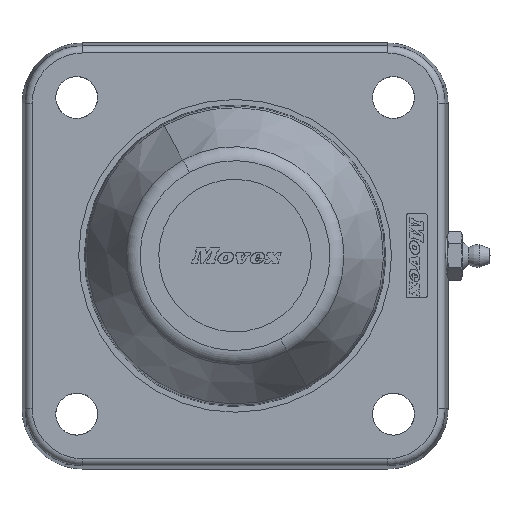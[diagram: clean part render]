
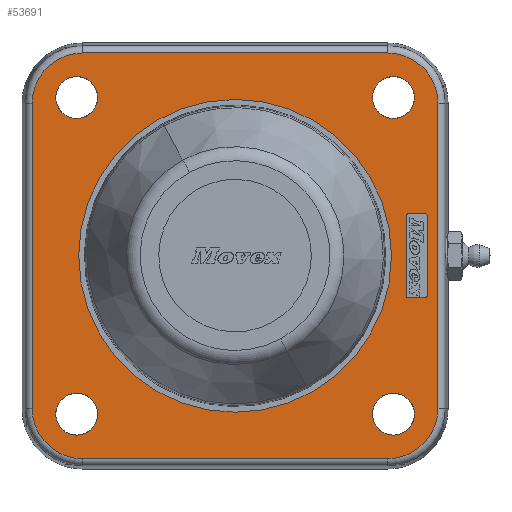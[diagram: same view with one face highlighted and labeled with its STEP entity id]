
A CAD part, top view. The second image highlights one B-rep face of the part: STEP entity #53691.
In plain terms, the highlighted planar face has unit normal (0, 0, 1).
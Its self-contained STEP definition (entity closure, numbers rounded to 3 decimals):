
#52777=CARTESIAN_POINT('Vertex',(41.,0.,25.5)) ;
#52780=CARTESIAN_POINT('Axis2P3D Location',(0.,0.,25.5)) ;
#52784=CARTESIAN_POINT('Vertex',(-41.,0.,25.5)) ;
#52804=CARTESIAN_POINT('Axis2P3D Location',(0.,0.,25.5)) ;
#52834=CARTESIAN_POINT('Vertex',(47.,41.5,25.5)) ;
#52837=CARTESIAN_POINT('Axis2P3D Location',(41.5,41.5,25.5)) ;
#52841=CARTESIAN_POINT('Vertex',(36.,41.5,25.5)) ;
#52861=CARTESIAN_POINT('Axis2P3D Location',(41.5,41.5,25.5)) ;
#52891=CARTESIAN_POINT('Vertex',(-41.5,36.,25.5)) ;
#52894=CARTESIAN_POINT('Axis2P3D Location',(-41.5,41.5,25.5)) ;
#52898=CARTESIAN_POINT('Vertex',(-41.5,47.,25.5)) ;
#52918=CARTESIAN_POINT('Axis2P3D Location',(-41.5,41.5,25.5)) ;
#52948=CARTESIAN_POINT('Vertex',(-36.,-41.5,25.5)) ;
#52951=CARTESIAN_POINT('Axis2P3D Location',(-41.5,-41.5,25.5)) ;
#52955=CARTESIAN_POINT('Vertex',(-47.,-41.5,25.5)) ;
#52975=CARTESIAN_POINT('Axis2P3D Location',(-41.5,-41.5,25.5)) ;
#53005=CARTESIAN_POINT('Vertex',(41.5,-36.,25.5)) ;
#53008=CARTESIAN_POINT('Axis2P3D Location',(41.5,-41.5,25.5)) ;
#53012=CARTESIAN_POINT('Vertex',(41.5,-47.,25.5)) ;
#53032=CARTESIAN_POINT('Axis2P3D Location',(41.5,-41.5,25.5)) ;
#53053=CARTESIAN_POINT('Vertex',(-40.,53.173,25.5)) ;
#53067=CARTESIAN_POINT('Vertex',(-53.173,40.,25.5)) ;
#53070=CARTESIAN_POINT('Axis2P3D Location',(-40.,40.,25.5)) ;
#53210=CARTESIAN_POINT('Vertex',(40.,53.173,25.5)) ;
#53213=CARTESIAN_POINT('Line Origine',(0.,53.173,25.5)) ;
#53234=CARTESIAN_POINT('Vertex',(53.173,40.,25.5)) ;
#53237=CARTESIAN_POINT('Axis2P3D Location',(40.,40.,25.5)) ;
#53258=CARTESIAN_POINT('Vertex',(53.173,-40.,25.5)) ;
#53261=CARTESIAN_POINT('Line Origine',(53.173,0.,25.5)) ;
#53282=CARTESIAN_POINT('Vertex',(40.,-53.173,25.5)) ;
#53285=CARTESIAN_POINT('Axis2P3D Location',(40.,-40.,25.5)) ;
#53306=CARTESIAN_POINT('Vertex',(-40.,-53.173,25.5)) ;
#53309=CARTESIAN_POINT('Line Origine',(0.,-53.173,25.5)) ;
#53330=CARTESIAN_POINT('Vertex',(-53.173,-40.,25.5)) ;
#53333=CARTESIAN_POINT('Axis2P3D Location',(-40.,-40.,25.5)) ;
#53355=CARTESIAN_POINT('Line Origine',(-53.173,0.,25.5)) ;
#53590=CARTESIAN_POINT('Axis2P3D Location',(0.,0.,25.5)) ;
#53625=CARTESIAN_POINT('Axis2P3D Location',(-45.346,10.5,25.5)) ;
#53629=CARTESIAN_POINT('Vertex',(-44.846,10.5,25.5)) ;
#53631=CARTESIAN_POINT('Vertex',(-45.346,11.,25.5)) ;
#53634=CARTESIAN_POINT('Line Origine',(-44.846,0.,25.5)) ;
#53638=CARTESIAN_POINT('Vertex',(-44.846,-10.5,25.5)) ;
#53641=CARTESIAN_POINT('Axis2P3D Location',(-45.346,-10.5,25.5)) ;
#53645=CARTESIAN_POINT('Vertex',(-45.346,-11.,25.5)) ;
#53648=CARTESIAN_POINT('Line Origine',(-47.595,-11.,25.5)) ;
#53652=CARTESIAN_POINT('Vertex',(-49.845,-11.,25.5)) ;
#53655=CARTESIAN_POINT('Axis2P3D Location',(-49.845,-10.5,25.5)) ;
#53659=CARTESIAN_POINT('Vertex',(-50.345,-10.5,25.5)) ;
#53662=CARTESIAN_POINT('Line Origine',(-50.345,0.,25.5)) ;
#53666=CARTESIAN_POINT('Vertex',(-50.345,10.5,25.5)) ;
#53669=CARTESIAN_POINT('Axis2P3D Location',(-49.845,10.5,25.5)) ;
#53673=CARTESIAN_POINT('Vertex',(-49.845,11.,25.5)) ;
#53676=CARTESIAN_POINT('Line Origine',(-47.595,11.,25.5)) ;
#52781=DIRECTION('Axis2P3D Direction',(0.,0.,1.)) ;
#52805=DIRECTION('Axis2P3D Direction',(0.,0.,1.)) ;
#52838=DIRECTION('Axis2P3D Direction',(0.,0.,1.)) ;
#52862=DIRECTION('Axis2P3D Direction',(0.,0.,1.)) ;
#52895=DIRECTION('Axis2P3D Direction',(0.,-0.,1.)) ;
#52919=DIRECTION('Axis2P3D Direction',(0.,-0.,1.)) ;
#52952=DIRECTION('Axis2P3D Direction',(0.,0.,1.)) ;
#52976=DIRECTION('Axis2P3D Direction',(0.,0.,1.)) ;
#53009=DIRECTION('Axis2P3D Direction',(0.,0.,1.)) ;
#53033=DIRECTION('Axis2P3D Direction',(0.,0.,1.)) ;
#53071=DIRECTION('Axis2P3D Direction',(-0.,0.,1.)) ;
#53214=DIRECTION('Vector Direction',(1.,0.,0.)) ;
#53238=DIRECTION('Axis2P3D Direction',(0.,0.,1.)) ;
#53262=DIRECTION('Vector Direction',(0.,-1.,0.)) ;
#53286=DIRECTION('Axis2P3D Direction',(0.,0.,1.)) ;
#53310=DIRECTION('Vector Direction',(-1.,0.,0.)) ;
#53334=DIRECTION('Axis2P3D Direction',(0.,-0.,1.)) ;
#53356=DIRECTION('Vector Direction',(0.,1.,0.)) ;
#53591=DIRECTION('Axis2P3D Direction',(0.,0.,1.)) ;
#53592=DIRECTION('Axis2P3D XDirection',(1.,0.,0.)) ;
#53626=DIRECTION('Axis2P3D Direction',(0.,0.,1.)) ;
#53635=DIRECTION('Vector Direction',(0.,1.,0.)) ;
#53642=DIRECTION('Axis2P3D Direction',(0.,0.,1.)) ;
#53649=DIRECTION('Vector Direction',(-1.,0.,0.)) ;
#53656=DIRECTION('Axis2P3D Direction',(0.,0.,1.)) ;
#53663=DIRECTION('Vector Direction',(0.,1.,0.)) ;
#53670=DIRECTION('Axis2P3D Direction',(0.,0.,1.)) ;
#53677=DIRECTION('Vector Direction',(1.,0.,0.)) ;
#52782=AXIS2_PLACEMENT_3D('Circle Axis2P3D',#52780,#52781,$) ;
#52806=AXIS2_PLACEMENT_3D('Circle Axis2P3D',#52804,#52805,$) ;
#52839=AXIS2_PLACEMENT_3D('Circle Axis2P3D',#52837,#52838,$) ;
#52863=AXIS2_PLACEMENT_3D('Circle Axis2P3D',#52861,#52862,$) ;
#52896=AXIS2_PLACEMENT_3D('Circle Axis2P3D',#52894,#52895,$) ;
#52920=AXIS2_PLACEMENT_3D('Circle Axis2P3D',#52918,#52919,$) ;
#52953=AXIS2_PLACEMENT_3D('Circle Axis2P3D',#52951,#52952,$) ;
#52977=AXIS2_PLACEMENT_3D('Circle Axis2P3D',#52975,#52976,$) ;
#53010=AXIS2_PLACEMENT_3D('Circle Axis2P3D',#53008,#53009,$) ;
#53034=AXIS2_PLACEMENT_3D('Circle Axis2P3D',#53032,#53033,$) ;
#53072=AXIS2_PLACEMENT_3D('Circle Axis2P3D',#53070,#53071,$) ;
#53239=AXIS2_PLACEMENT_3D('Circle Axis2P3D',#53237,#53238,$) ;
#53287=AXIS2_PLACEMENT_3D('Circle Axis2P3D',#53285,#53286,$) ;
#53335=AXIS2_PLACEMENT_3D('Circle Axis2P3D',#53333,#53334,$) ;
#53593=AXIS2_PLACEMENT_3D('Plane Axis2P3D',#53590,#53591,#53592) ;
#53627=AXIS2_PLACEMENT_3D('Circle Axis2P3D',#53625,#53626,$) ;
#53643=AXIS2_PLACEMENT_3D('Circle Axis2P3D',#53641,#53642,$) ;
#53657=AXIS2_PLACEMENT_3D('Circle Axis2P3D',#53655,#53656,$) ;
#53671=AXIS2_PLACEMENT_3D('Circle Axis2P3D',#53669,#53670,$) ;
#53596=ORIENTED_EDGE('',*,*,#53241,.T.) ;
#53597=ORIENTED_EDGE('',*,*,#53217,.T.) ;
#53598=ORIENTED_EDGE('',*,*,#53074,.T.) ;
#53599=ORIENTED_EDGE('',*,*,#53359,.T.) ;
#53600=ORIENTED_EDGE('',*,*,#53337,.T.) ;
#53601=ORIENTED_EDGE('',*,*,#53313,.T.) ;
#53602=ORIENTED_EDGE('',*,*,#53289,.T.) ;
#53603=ORIENTED_EDGE('',*,*,#53265,.T.) ;
#53606=ORIENTED_EDGE('',*,*,#52786,.F.) ;
#53607=ORIENTED_EDGE('',*,*,#52808,.F.) ;
#53610=ORIENTED_EDGE('',*,*,#52843,.F.) ;
#53611=ORIENTED_EDGE('',*,*,#52865,.F.) ;
#53614=ORIENTED_EDGE('',*,*,#52922,.F.) ;
#53615=ORIENTED_EDGE('',*,*,#52900,.F.) ;
#53618=ORIENTED_EDGE('',*,*,#52979,.F.) ;
#53619=ORIENTED_EDGE('',*,*,#52957,.F.) ;
#53622=ORIENTED_EDGE('',*,*,#53036,.F.) ;
#53623=ORIENTED_EDGE('',*,*,#53014,.F.) ;
#53682=ORIENTED_EDGE('',*,*,#53633,.F.) ;
#53683=ORIENTED_EDGE('',*,*,#53640,.F.) ;
#53684=ORIENTED_EDGE('',*,*,#53647,.F.) ;
#53685=ORIENTED_EDGE('',*,*,#53654,.F.) ;
#53686=ORIENTED_EDGE('',*,*,#53661,.F.) ;
#53687=ORIENTED_EDGE('',*,*,#53668,.F.) ;
#53688=ORIENTED_EDGE('',*,*,#53675,.F.) ;
#53689=ORIENTED_EDGE('',*,*,#53680,.F.) ;
#53608=FACE_BOUND('',#53605,.T.) ;
#53612=FACE_BOUND('',#53609,.T.) ;
#53616=FACE_BOUND('',#53613,.T.) ;
#53620=FACE_BOUND('',#53617,.T.) ;
#53624=FACE_BOUND('',#53621,.T.) ;
#53690=FACE_BOUND('',#53681,.T.) ;
#53215=VECTOR('Line Direction',#53214,1.) ;
#53263=VECTOR('Line Direction',#53262,1.) ;
#53311=VECTOR('Line Direction',#53310,1.) ;
#53357=VECTOR('Line Direction',#53356,1.) ;
#53636=VECTOR('Line Direction',#53635,1.) ;
#53650=VECTOR('Line Direction',#53649,1.) ;
#53664=VECTOR('Line Direction',#53663,1.) ;
#53678=VECTOR('Line Direction',#53677,1.) ;
#53691=ADVANCED_FACE('PartBody',(#53604,#53608,#53612,#53616,#53620,#53624,#53690),#53594,.T.) ;
#52783=CIRCLE('generated circle',#52782,41.) ;
#52807=CIRCLE('generated circle',#52806,41.) ;
#52840=CIRCLE('generated circle',#52839,5.5) ;
#52864=CIRCLE('generated circle',#52863,5.5) ;
#52897=CIRCLE('generated circle',#52896,5.5) ;
#52921=CIRCLE('generated circle',#52920,5.5) ;
#52954=CIRCLE('generated circle',#52953,5.5) ;
#52978=CIRCLE('generated circle',#52977,5.5) ;
#53011=CIRCLE('generated circle',#53010,5.5) ;
#53035=CIRCLE('generated circle',#53034,5.5) ;
#53073=CIRCLE('generated circle',#53072,13.173) ;
#53240=CIRCLE('generated circle',#53239,13.173) ;
#53288=CIRCLE('generated circle',#53287,13.173) ;
#53336=CIRCLE('generated circle',#53335,13.173) ;
#53628=CIRCLE('generated circle',#53627,0.5) ;
#53644=CIRCLE('generated circle',#53643,0.5) ;
#53658=CIRCLE('generated circle',#53657,0.5) ;
#53672=CIRCLE('generated circle',#53671,0.5) ;
#52786=EDGE_CURVE('',#52778,#52785,#52783,.T.) ;
#52808=EDGE_CURVE('',#52785,#52778,#52807,.T.) ;
#52843=EDGE_CURVE('',#52835,#52842,#52840,.T.) ;
#52865=EDGE_CURVE('',#52842,#52835,#52864,.T.) ;
#52900=EDGE_CURVE('',#52892,#52899,#52897,.T.) ;
#52922=EDGE_CURVE('',#52899,#52892,#52921,.T.) ;
#52957=EDGE_CURVE('',#52949,#52956,#52954,.T.) ;
#52979=EDGE_CURVE('',#52956,#52949,#52978,.T.) ;
#53014=EDGE_CURVE('',#53006,#53013,#53011,.T.) ;
#53036=EDGE_CURVE('',#53013,#53006,#53035,.T.) ;
#53074=EDGE_CURVE('',#53054,#53068,#53073,.T.) ;
#53217=EDGE_CURVE('',#53211,#53054,#53216,.F.) ;
#53241=EDGE_CURVE('',#53235,#53211,#53240,.T.) ;
#53265=EDGE_CURVE('',#53259,#53235,#53264,.F.) ;
#53289=EDGE_CURVE('',#53283,#53259,#53288,.T.) ;
#53313=EDGE_CURVE('',#53307,#53283,#53312,.F.) ;
#53337=EDGE_CURVE('',#53331,#53307,#53336,.T.) ;
#53359=EDGE_CURVE('',#53068,#53331,#53358,.F.) ;
#53633=EDGE_CURVE('',#53630,#53632,#53628,.T.) ;
#53640=EDGE_CURVE('',#53639,#53630,#53637,.T.) ;
#53647=EDGE_CURVE('',#53646,#53639,#53644,.T.) ;
#53654=EDGE_CURVE('',#53653,#53646,#53651,.F.) ;
#53661=EDGE_CURVE('',#53660,#53653,#53658,.T.) ;
#53668=EDGE_CURVE('',#53667,#53660,#53665,.F.) ;
#53675=EDGE_CURVE('',#53674,#53667,#53672,.T.) ;
#53680=EDGE_CURVE('',#53632,#53674,#53679,.F.) ;
#53595=EDGE_LOOP('',(#53596,#53597,#53598,#53599,#53600,#53601,#53602,#53603)) ;
#53605=EDGE_LOOP('',(#53606,#53607)) ;
#53609=EDGE_LOOP('',(#53610,#53611)) ;
#53613=EDGE_LOOP('',(#53614,#53615)) ;
#53617=EDGE_LOOP('',(#53618,#53619)) ;
#53621=EDGE_LOOP('',(#53622,#53623)) ;
#53681=EDGE_LOOP('',(#53682,#53683,#53684,#53685,#53686,#53687,#53688,#53689)) ;
#53604=FACE_OUTER_BOUND('',#53595,.T.) ;
#53216=LINE('Line',#53213,#53215) ;
#53264=LINE('Line',#53261,#53263) ;
#53312=LINE('Line',#53309,#53311) ;
#53358=LINE('Line',#53355,#53357) ;
#53637=LINE('Line',#53634,#53636) ;
#53651=LINE('Line',#53648,#53650) ;
#53665=LINE('Line',#53662,#53664) ;
#53679=LINE('Line',#53676,#53678) ;
#53594=PLANE('',#53593) ;
#52778=VERTEX_POINT('',#52777) ;
#52785=VERTEX_POINT('',#52784) ;
#52835=VERTEX_POINT('',#52834) ;
#52842=VERTEX_POINT('',#52841) ;
#52892=VERTEX_POINT('',#52891) ;
#52899=VERTEX_POINT('',#52898) ;
#52949=VERTEX_POINT('',#52948) ;
#52956=VERTEX_POINT('',#52955) ;
#53006=VERTEX_POINT('',#53005) ;
#53013=VERTEX_POINT('',#53012) ;
#53054=VERTEX_POINT('',#53053) ;
#53068=VERTEX_POINT('',#53067) ;
#53211=VERTEX_POINT('',#53210) ;
#53235=VERTEX_POINT('',#53234) ;
#53259=VERTEX_POINT('',#53258) ;
#53283=VERTEX_POINT('',#53282) ;
#53307=VERTEX_POINT('',#53306) ;
#53331=VERTEX_POINT('',#53330) ;
#53630=VERTEX_POINT('',#53629) ;
#53632=VERTEX_POINT('',#53631) ;
#53639=VERTEX_POINT('',#53638) ;
#53646=VERTEX_POINT('',#53645) ;
#53653=VERTEX_POINT('',#53652) ;
#53660=VERTEX_POINT('',#53659) ;
#53667=VERTEX_POINT('',#53666) ;
#53674=VERTEX_POINT('',#53673) ;
